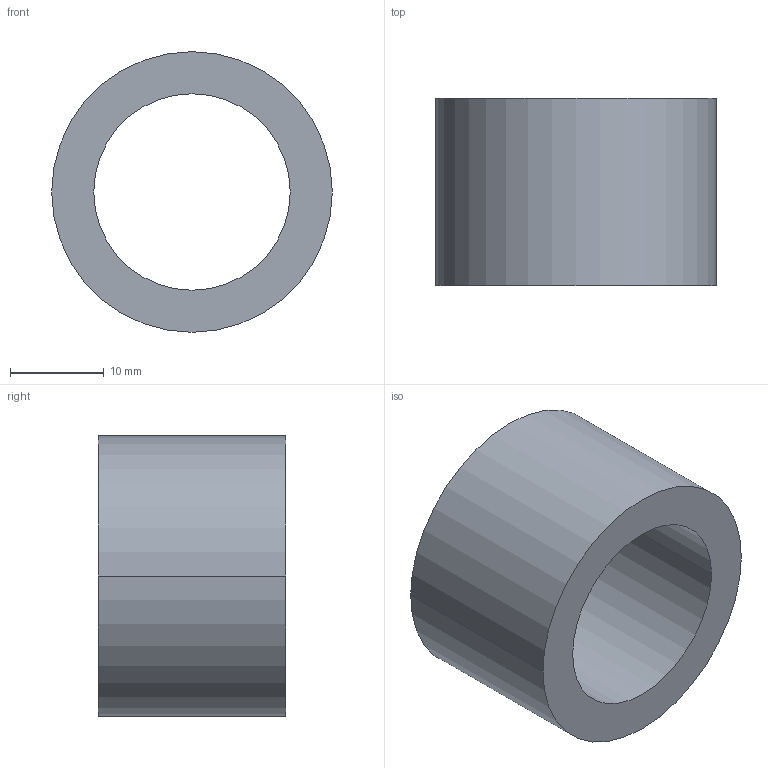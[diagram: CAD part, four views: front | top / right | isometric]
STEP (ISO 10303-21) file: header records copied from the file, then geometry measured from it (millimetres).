
FILE_DESCRIPTION (( 'STEP AP203' ), '1' );
FILE_NAME ('30800.WPP30H21.0.step', '2019-01-23T22:47:28', ( '' ), ( '' ), 'SwSTEP 2.0', 'SolidWorks 2017', '' );
FILE_SCHEMA (( 'CONFIG_CONTROL_DESIGN' ));
Length unit declared in the file: millimetre
Products named in the file (1): 30800.WPP30H21.0
Bounding box: 30 x 20 x 30 mm (x, y, z)
Volume: 7074.4 mm3; surface area: 3844.5 mm2
Topology: 1 solids, 1 shells, 8 faces, 16 edges, 10 vertices
Faces by surface type: cylinder 4, torus 2, plane 2
Entity records: 297 total; most frequent: DIRECTION 46, CARTESIAN_POINT 35, ORIENTED_EDGE 32, AXIS2_PLACEMENT_3D 21, EDGE_CURVE 16, CIRCLE 12, VERTEX_POINT 10, EDGE_LOOP 10
